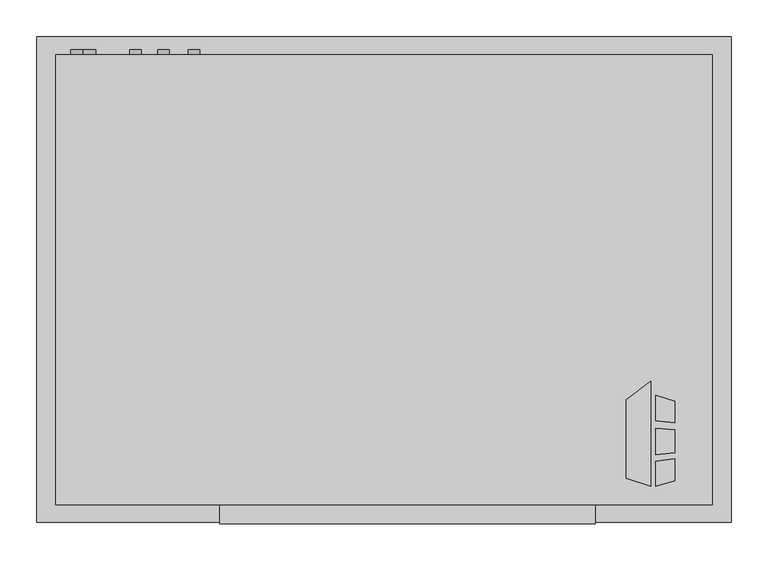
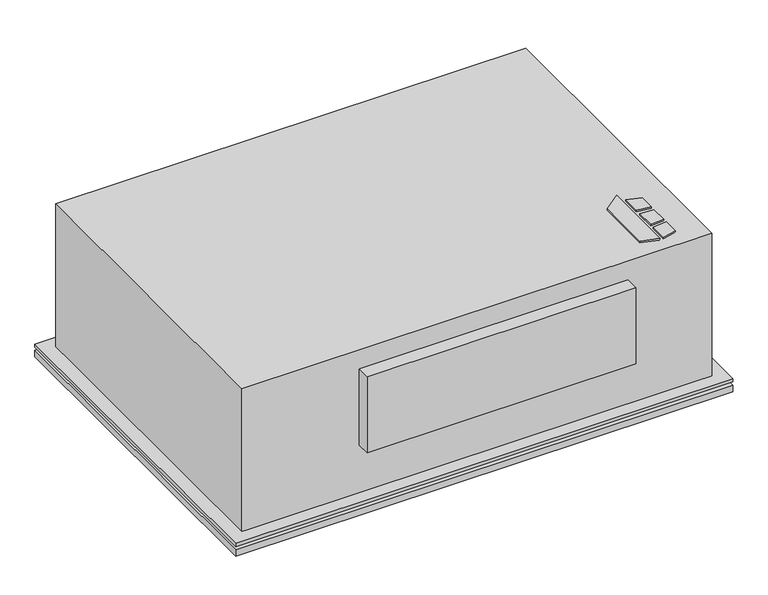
"""IFC4 building model written with IfcOpenShell, lengths in millimetres: proxy geometry, Horizontal_Telescoping_Fan_Coil_Unit_-_CBY_-_IEC_-_4-Pipe_LH_2022 : Size 03 - 277v/60Hz/1Ph - 4/1 Coil."""

from ifc_helpers import new_model, si_unit, point, frame, frame_2d, origin, origin_with_axes, place, context, project, spatial, polyline, circle_curve, trimmed, segment, composite_curve, outline, extrude, source, transform, mapped, element, save


def mechanical_equipment_1a55ae02(model_context):
    return source(origin(), model_context, "Body", "SweptSolid", [
        extrude(outline(polyline([(480.7019761, -401.0078476), (513.2602728, -375.5705184), (513.2602728, -517.525), (480.7019761, -507.3054201), (480.7019761, -401.0078476)])), origin_with_axes(), (0.0, 0.0, 1.0), 3.175),
        extrude(outline(polyline([(520.0186058, -428.879852), (520.0186058, -394.3999379), (546.1, -402.5865115), (546.1, -432.0822446), (520.0186058, -428.879852)])), origin_with_axes(), (0.0, 0.0, 1.0), 3.175),
        extrude(outline(polyline([(546.1, -510.5365115), (520.0186058, -517.525), (520.0186058, -484.3036996), (546.1, -480.7618564), (546.1, -510.5365115)])), origin_with_axes(), (0.0, 0.0, 1.0), 3.175),
        extrude(outline(polyline([(546.1, -441.1638277), (546.1, -472.413983), (520.0186058, -475.155248), (520.0186058, -439.2975378), (546.1, -441.1638277)])), origin_with_axes(), (0.0, 0.0, 1.0), 3.175),
        extrude(outline(composite_curve([segment(trimmed(circle_curve(frame_2d((-60.325, -104.775)), 7.9375), [point((-60.325, -96.8375))], [point((-60.325, -112.7125))], False, "CARTESIAN"), True, "CONTINUOUS"), segment(trimmed(circle_curve(frame_2d((-60.325, -104.775)), 7.9375), [point((-60.325, -112.7125))], [point((-60.325, -96.8375))], False, "CARTESIAN"), True, "CONTINUOUS")], self_intersect=False)), frame((0.0, 66.675, 0.0), z_axis=(0.0, 1.0, 0.0), x_axis=(0.0, 0.0, 1.0)), (0.0, 0.0, 1.0), 6.35),
        extrude(outline(composite_curve([segment(trimmed(circle_curve(frame_2d((-95.25, -146.05)), 7.9375), [point((-95.25, -138.1125))], [point((-95.25, -153.9875))], False, "CARTESIAN"), True, "CONTINUOUS"), segment(trimmed(circle_curve(frame_2d((-95.25, -146.05)), 7.9375), [point((-95.25, -153.9875))], [point((-95.25, -138.1125))], False, "CARTESIAN"), True, "CONTINUOUS")], self_intersect=False)), frame((0.0, 66.675, 0.0), z_axis=(0.0, 1.0, 0.0), x_axis=(0.0, 0.0, 1.0)), (0.0, 0.0, 1.0), 6.35),
        extrude(outline(composite_curve([segment(trimmed(circle_curve(frame_2d((-44.45, -184.15)), 7.9375), [point((-44.45, -176.2125))], [point((-44.45, -192.0875))], False, "CARTESIAN"), True, "CONTINUOUS"), segment(trimmed(circle_curve(frame_2d((-44.45, -184.15)), 7.9375), [point((-44.45, -192.0875))], [point((-44.45, -176.2125))], False, "CARTESIAN"), True, "CONTINUOUS")], self_intersect=False)), frame((0.0, 66.675, 0.0), z_axis=(0.0, 1.0, 0.0), x_axis=(0.0, 0.0, 1.0)), (0.0, 0.0, 1.0), 6.35),
        extrude(outline(composite_curve([segment(trimmed(circle_curve(frame_2d((-85.725, -263.525)), 7.9375), [point((-85.725, -255.5875))], [point((-85.725, -271.4625))], False, "CARTESIAN"), True, "CONTINUOUS"), segment(trimmed(circle_curve(frame_2d((-85.725, -263.525)), 7.9375), [point((-85.725, -271.4625))], [point((-85.725, -255.5875))], False, "CARTESIAN"), True, "CONTINUOUS")], self_intersect=False)), frame((0.0, 66.675, 0.0), z_axis=(0.0, 1.0, 0.0), x_axis=(0.0, 0.0, 1.0)), (0.0, 0.0, 1.0), 6.35),
        extrude(outline(composite_curve([segment(trimmed(circle_curve(frame_2d((-260.35, -247.65)), 9.525), [point((-260.35, -238.125))], [point((-260.35, -257.175))], False, "CARTESIAN"), True, "CONTINUOUS"), segment(trimmed(circle_curve(frame_2d((-260.35, -247.65)), 9.525), [point((-260.35, -257.175))], [point((-260.35, -238.125))], False, "CARTESIAN"), True, "CONTINUOUS")], self_intersect=False)), frame((0.0, 66.675, 0.0), z_axis=(0.0, 1.0, 0.0), x_axis=(0.0, 0.0, 1.0)), (0.0, 0.0, 1.0), 6.35),
        extrude(outline(polyline([(622.3, 90.4875), (622.3, -566.7375), (-317.5, -566.7375), (-317.5, 90.4875), (622.3, 90.4875)])), frame((0.0, 0.0, -311.15), z_axis=(0.0, 0.0, 1.0), x_axis=(1.0, 0.0, 0.0)), (0.0, 0.0, 1.0), 12.7),
        extrude(outline(polyline([(622.3, 90.4875), (622.3, -566.7375), (-317.5, -566.7375), (-317.5, 90.4875), (622.3, 90.4875)])), frame((0.0, 0.0, -292.1), z_axis=(0.0, 0.0, 1.0), x_axis=(1.0, 0.0, 0.0)), (0.0, 0.0, 1.0), 6.35),
        extrude(outline(polyline([(596.9, 65.0875), (596.9, -541.3375), (-292.1, -541.3375), (-292.1, 65.0875), (596.9, 65.0875)])), frame((0.0, 0.0, -298.45), z_axis=(0.0, 0.0, 1.0), x_axis=(1.0, 0.0, 0.0)), (0.0, 0.0, 1.0), 6.35),
        extrude(outline(polyline([(438.15, -568.325), (-69.85, -568.325), (-69.85, -542.925), (438.15, -542.925), (438.15, -568.325)])), frame((0.0, 0.0, -190.5), z_axis=(0.0, 0.0, 1.0), x_axis=(1.0, 0.0, 0.0)), (0.0, 0.0, 1.0), 152.4),
        extrude(outline(polyline([(-292.1, 66.675), (596.9, 66.675), (596.9, -542.925), (-292.1, -542.925), (-292.1, 66.675)])), frame((0.0, 0.0, -285.75), z_axis=(0.0, 0.0, 1.0), x_axis=(1.0, 0.0, 0.0)), (0.0, 0.0, 1.0), 285.75),
        extrude(outline(polyline([(508.0, -9.525), (508.0, -263.525), (-203.2, -263.525), (-203.2, -9.525), (508.0, -9.525)])), frame((0.0, 0.0, -317.5), z_axis=(0.0, 0.0, 1.0), x_axis=(1.0, 0.0, 0.0)), (0.0, 0.0, 1.0), 6.35),
    ])


if __name__ == "__main__":
    model = new_model("IFC4")
    model_context = context("Model", 3, world=origin())
    ifc_project = project(units=[si_unit("LENGTHUNIT", "METRE", prefix="MILLI")], contexts=[model_context])
    site = spatial("IfcSite", under=ifc_project)
    building = spatial("IfcBuilding", under=site)
    placement = place(None, origin())
    mechanical_equipment_shape = mechanical_equipment_1a55ae02(model_context)
    element("IfcBuildingElementProxy", 1, Name="Horizontal_Telescoping_Fan_Coil_Unit_-_CBY_-_IEC_-_4-Pipe_LH_2022 : Size 03 - 277v/60Hz/1Ph - 4/1 Coil", ObjectType="Horizontal_Telescoping_Fan_Coil_Unit_-_CBY_-_IEC_-_4-Pipe_LH_2022 : Size 03 - 277v/60Hz/1Ph - 4/1 Coil", at=placement, inside=building, context=model_context, shape_type="MappedRepresentation", body=[
        mapped(mechanical_equipment_shape, transform((0.0, 0.0, 0.0), x_axis=(1.0, 0.0, 0.0), y_axis=(0.0, 1.0, 0.0), z_axis=(0.0, 0.0, 1.0))),
    ])
    save(model, "model.ifc")
